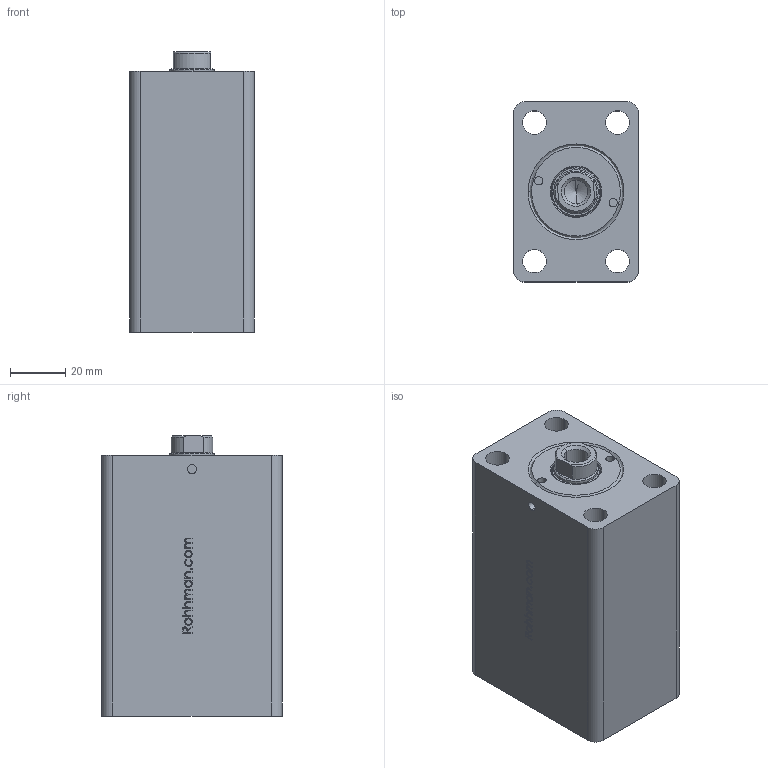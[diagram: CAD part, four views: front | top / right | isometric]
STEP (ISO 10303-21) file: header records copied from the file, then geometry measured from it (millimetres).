
FILE_DESCRIPTION (( 'STEP AP214' ), '1' );
FILE_NAME ('KBZ_02_25_16_50.STEP', '2022-09-03T17:44:03', ( '' ), ( '' ), 'SwSTEP 2.0', 'SolidWorks 2021', '' );
FILE_SCHEMA (( 'AUTOMOTIVE_DESIGN' ));
Length unit declared in the file: millimetre
Products named in the file (9): K22-16X20_5X5; 16_18_PAP_16_18_5_PAP; KBZ_03_25_16_烰_KAPAK; 16_K_MIL_WEB; K06-16X22_8X3_1X4 (K016_3); KBZ_03_25_16_ON_KAPAK; KBZ_02_25_25_GOVDE_WEB; KBZ_02_25_16_50; KO-22X2_5
Assembly tree (8 placements, depth 3):
  KBZ_02_25_16_50
    KBZ_02_25_25_GOVDE_WEB
    16_K_MIL_WEB
    KBZ_03_25_16_烰_KAPAK
      KBZ_03_25_16_ON_KAPAK
      K22-16X20_5X5
      K06-16X22_8X3_1X4 (K016_3)
      KO-22X2_5
      16_18_PAP_16_18_5_PAP
Bounding box: 45 x 65 x 101 mm (x, y, z)
Volume: 231907.8 mm3; surface area: 54203.9 mm2
Topology: 7 solids, 7 shells, 387 faces, 920 edges, 580 vertices
Faces by surface type: bspline 130, plane 117, cylinder 79, cone 53, torus 8
Entity records: 16653 total; most frequent: CARTESIAN_POINT 8020, ORIENTED_EDGE 1836, DIRECTION 1410, EDGE_CURVE 918, VERTEX_POINT 580, AXIS2_PLACEMENT_3D 494, EDGE_LOOP 444, LINE 422
